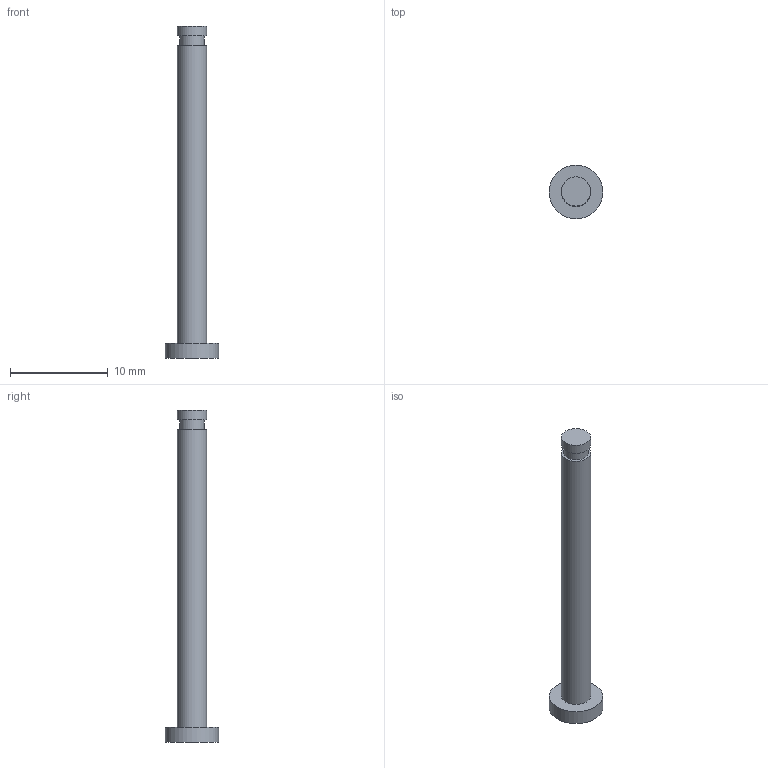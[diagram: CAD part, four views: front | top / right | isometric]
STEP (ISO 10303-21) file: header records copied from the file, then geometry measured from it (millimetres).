
FILE_DESCRIPTION(('Open CASCADE Model'),'2;1');
FILE_NAME('F09-PIN3-L34','2026-11-15T22:32:13',('Author'),( 'Open CASCADE'),'Open CASCADE STEP processor 8.0','build123d', 'Unknown');
FILE_SCHEMA(('AUTOMOTIVE_DESIGN { 1 0 10303 214 1 1 1 1 }'));
Length unit declared in the file: millimetre
Products named in the file (1): F09-PIN3-L34
Bounding box: 5.5 x 5.5 x 34 mm (x, y, z)
Volume: 263.2 mm3; surface area: 382.5 mm2
Topology: 1 solids, 1 shells, 9 faces, 12 edges, 8 vertices
Faces by surface type: plane 5, cylinder 4
Full cylindrical faces by diameter (mm): 2.5 x1, 3 x2, 5.5 x1
Entity records: 360 total; most frequent: DIRECTION 64, CARTESIAN_POINT 54, ORIENTED_EDGE 24, PCURVE 24, DEFINITIONAL_REPRESENTATION 24, LINE 20, VECTOR 20, AXIS2_PLACEMENT_3D 18
